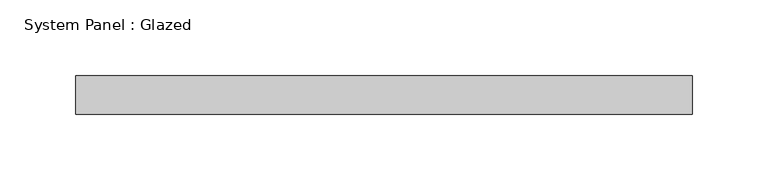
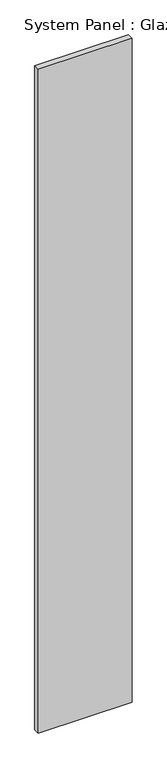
"""IFC4 building model written with IfcOpenShell, lengths in millimetres: plate geometry, System Panel : Glazed."""

from ifc_helpers import new_model, si_unit, origin, origin_with_axes, place, context, project, spatial, polyline, outline, extrude, source, transform, mapped, element, save


def system_panel_glazed_737b14db(model_context):
    return source(origin(), model_context, "Body", "SweptSolid", [
        extrude(outline(polyline([(203.7584914, -44.45), (-203.7584914, -44.45), (-203.7584914, -19.05), (203.7584914, -19.05), (203.7584914, -44.45)])), origin_with_axes(), (0.0, 0.0, 1.0), 3048.0),
    ])


if __name__ == "__main__":
    model = new_model("IFC4")
    model_context = context("Model", 3, world=origin())
    ifc_project = project(units=[si_unit("LENGTHUNIT", "METRE", prefix="MILLI")], contexts=[model_context])
    site = spatial("IfcSite", under=ifc_project)
    building = spatial("IfcBuilding", under=site)
    placement = place(None, origin())
    system_panel_glazed_shape = system_panel_glazed_737b14db(model_context)
    element("IfcPlate", 1, ObjectType="System Panel : Glazed", at=placement, inside=building, context=model_context, shape_type="MappedRepresentation", body=[
        mapped(system_panel_glazed_shape, transform((0.0, 0.0, 0.0), x_axis=(1.0, 0.0, 0.0), y_axis=(0.0, 1.0, 0.0), z_axis=(0.0, 0.0, 1.0))),
    ])
    save(model, "model.ifc")
